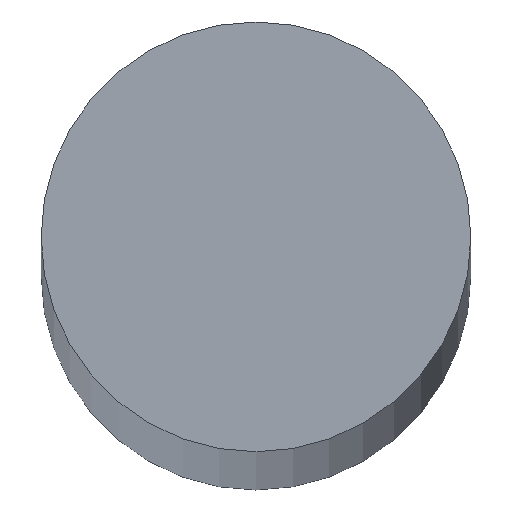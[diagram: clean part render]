
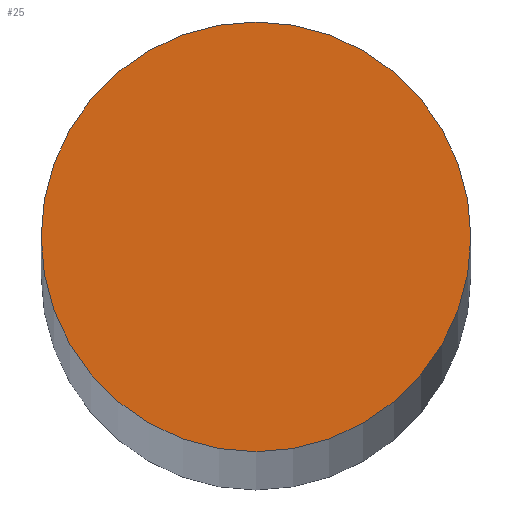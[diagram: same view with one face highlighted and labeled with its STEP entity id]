
A CAD part, top view. The second image highlights one B-rep face of the part: STEP entity #25.
In plain terms, the highlighted planar face has unit normal (0, 0, 1).
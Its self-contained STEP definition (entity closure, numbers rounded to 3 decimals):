
#3 = EDGE_CURVE ( 'NONE', #77, #78, #29, .T. ) ;
#4 = AXIS2_PLACEMENT_3D ( 'NONE', #105, #108, #109 ) ;
#6 = EDGE_CURVE ( 'NONE', #78, #77, #51, .T. ) ;
#12 = AXIS2_PLACEMENT_3D ( 'NONE', #80, #82, #84 ) ;
#13 = AXIS2_PLACEMENT_3D ( 'NONE', #87, #88, #89 ) ;
#25 = ADVANCED_FACE ( 'NONE', ( #55 ), #106, .T. ) ;
#29 = CIRCLE ( 'NONE', #12, 6. ) ;
#35 = EDGE_LOOP ( 'NONE', ( #41, #39 ) ) ;
#39 = ORIENTED_EDGE ( 'NONE', *, *, #6, .T. ) ;
#41 = ORIENTED_EDGE ( 'NONE', *, *, #3, .T. ) ;
#51 = CIRCLE ( 'NONE', #13, 6. ) ;
#55 = FACE_OUTER_BOUND ( 'NONE', #35, .T. ) ;
#77 = VERTEX_POINT ( 'NONE', #115 ) ;
#78 = VERTEX_POINT ( 'NONE', #114 ) ;
#80 = CARTESIAN_POINT ( 'NONE',  ( 0., 0., 306. ) ) ;
#82 = DIRECTION ( 'NONE',  ( 0., 0., 1. ) ) ;
#84 = DIRECTION ( 'NONE',  ( 1., 0., 0. ) ) ;
#87 = CARTESIAN_POINT ( 'NONE',  ( 0., 0., 306. ) ) ;
#88 = DIRECTION ( 'NONE',  ( 0., 0., 1. ) ) ;
#89 = DIRECTION ( 'NONE',  ( 1., 0., 0. ) ) ;
#105 = CARTESIAN_POINT ( 'NONE',  ( 0., 0., 306. ) ) ;
#106 = PLANE ( 'NONE',  #4 ) ;
#108 = DIRECTION ( 'NONE',  ( 0., 0., 1. ) ) ;
#109 = DIRECTION ( 'NONE',  ( 1., 0., 0. ) ) ;
#114 = CARTESIAN_POINT ( 'NONE',  ( 6., 0., 306. ) ) ;
#115 = CARTESIAN_POINT ( 'NONE',  ( -6., 0., 306. ) ) ;
